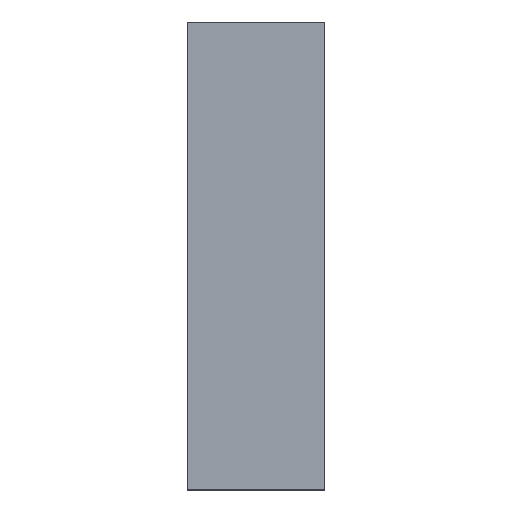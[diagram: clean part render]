
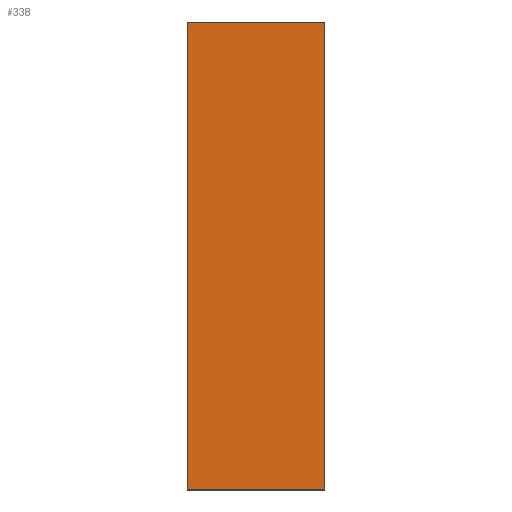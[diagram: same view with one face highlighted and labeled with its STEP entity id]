
A CAD part, top view. The second image highlights one B-rep face of the part: STEP entity #338.
In plain terms, the highlighted planar face has unit normal (0, 0, 1).
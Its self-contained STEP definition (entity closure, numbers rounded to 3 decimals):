
#24 = VERTEX_POINT('',#25);
#25 = CARTESIAN_POINT('',(-528.,-145.913,0.));
#32 = PLANE('',#33);
#33 = AXIS2_PLACEMENT_3D('',#34,#35,#36);
#34 = CARTESIAN_POINT('',(-528.,-145.913,-1.));
#35 = DIRECTION('',(1.,0.,-0.));
#36 = DIRECTION('',(0.,0.,1.));
#44 = PLANE('',#45);
#45 = AXIS2_PLACEMENT_3D('',#46,#47,#48);
#46 = CARTESIAN_POINT('',(-528.,-145.913,-1.));
#47 = DIRECTION('',(-0.,1.,0.));
#48 = DIRECTION('',(0.,0.,1.));
#85 = VERTEX_POINT('',#86);
#86 = CARTESIAN_POINT('',(-528.,-87.913,0.));
#100 = PLANE('',#101);
#101 = AXIS2_PLACEMENT_3D('',#102,#103,#104);
#102 = CARTESIAN_POINT('',(-528.,-87.913,-1.));
#103 = DIRECTION('',(-0.,1.,0.));
#104 = DIRECTION('',(0.,0.,1.));
#112 = EDGE_CURVE('',#24,#85,#113,.T.);
#113 = SURFACE_CURVE('',#114,(#118,#125),.PCURVE_S1.);
#114 = LINE('',#115,#116);
#115 = CARTESIAN_POINT('',(-528.,-145.913,0.));
#116 = VECTOR('',#117,1.);
#117 = DIRECTION('',(-0.,1.,0.));
#118 = PCURVE('',#32,#119);
#119 = DEFINITIONAL_REPRESENTATION('',(#120),#124);
#120 = LINE('',#121,#122);
#121 = CARTESIAN_POINT('',(1.,0.));
#122 = VECTOR('',#123,1.);
#123 = DIRECTION('',(0.,-1.));
#124 = ( GEOMETRIC_REPRESENTATION_CONTEXT(2) 
PARAMETRIC_REPRESENTATION_CONTEXT() REPRESENTATION_CONTEXT('2D SPACE',''
  ) );
#125 = PCURVE('',#126,#131);
#126 = PLANE('',#127);
#127 = AXIS2_PLACEMENT_3D('',#128,#129,#130);
#128 = CARTESIAN_POINT('',(-528.,-145.913,0.));
#129 = DIRECTION('',(0.,0.,1.));
#130 = DIRECTION('',(1.,0.,-0.));
#131 = DEFINITIONAL_REPRESENTATION('',(#132),#136);
#132 = LINE('',#133,#134);
#133 = CARTESIAN_POINT('',(0.,0.));
#134 = VECTOR('',#135,1.);
#135 = DIRECTION('',(0.,1.));
#136 = ( GEOMETRIC_REPRESENTATION_CONTEXT(2) 
PARAMETRIC_REPRESENTATION_CONTEXT() REPRESENTATION_CONTEXT('2D SPACE',''
  ) );
#144 = VERTEX_POINT('',#145);
#145 = CARTESIAN_POINT('',(-511.,-145.913,0.));
#152 = PLANE('',#153);
#153 = AXIS2_PLACEMENT_3D('',#154,#155,#156);
#154 = CARTESIAN_POINT('',(-511.,-145.913,-1.));
#155 = DIRECTION('',(1.,0.,-0.));
#156 = DIRECTION('',(0.,0.,1.));
#195 = VERTEX_POINT('',#196);
#196 = CARTESIAN_POINT('',(-511.,-87.913,0.));
#217 = EDGE_CURVE('',#144,#195,#218,.T.);
#218 = SURFACE_CURVE('',#219,(#223,#230),.PCURVE_S1.);
#219 = LINE('',#220,#221);
#220 = CARTESIAN_POINT('',(-511.,-145.913,0.));
#221 = VECTOR('',#222,1.);
#222 = DIRECTION('',(-0.,1.,0.));
#223 = PCURVE('',#152,#224);
#224 = DEFINITIONAL_REPRESENTATION('',(#225),#229);
#225 = LINE('',#226,#227);
#226 = CARTESIAN_POINT('',(1.,0.));
#227 = VECTOR('',#228,1.);
#228 = DIRECTION('',(0.,-1.));
#229 = ( GEOMETRIC_REPRESENTATION_CONTEXT(2) 
PARAMETRIC_REPRESENTATION_CONTEXT() REPRESENTATION_CONTEXT('2D SPACE',''
  ) );
#230 = PCURVE('',#126,#231);
#231 = DEFINITIONAL_REPRESENTATION('',(#232),#236);
#232 = LINE('',#233,#234);
#233 = CARTESIAN_POINT('',(17.,0.));
#234 = VECTOR('',#235,1.);
#235 = DIRECTION('',(0.,1.));
#236 = ( GEOMETRIC_REPRESENTATION_CONTEXT(2) 
PARAMETRIC_REPRESENTATION_CONTEXT() REPRESENTATION_CONTEXT('2D SPACE',''
  ) );
#263 = EDGE_CURVE('',#24,#144,#264,.T.);
#264 = SURFACE_CURVE('',#265,(#269,#276),.PCURVE_S1.);
#265 = LINE('',#266,#267);
#266 = CARTESIAN_POINT('',(-528.,-145.913,0.));
#267 = VECTOR('',#268,1.);
#268 = DIRECTION('',(1.,0.,-0.));
#269 = PCURVE('',#44,#270);
#270 = DEFINITIONAL_REPRESENTATION('',(#271),#275);
#271 = LINE('',#272,#273);
#272 = CARTESIAN_POINT('',(1.,0.));
#273 = VECTOR('',#274,1.);
#274 = DIRECTION('',(0.,1.));
#275 = ( GEOMETRIC_REPRESENTATION_CONTEXT(2) 
PARAMETRIC_REPRESENTATION_CONTEXT() REPRESENTATION_CONTEXT('2D SPACE',''
  ) );
#276 = PCURVE('',#126,#277);
#277 = DEFINITIONAL_REPRESENTATION('',(#278),#282);
#278 = LINE('',#279,#280);
#279 = CARTESIAN_POINT('',(0.,0.));
#280 = VECTOR('',#281,1.);
#281 = DIRECTION('',(1.,0.));
#282 = ( GEOMETRIC_REPRESENTATION_CONTEXT(2) 
PARAMETRIC_REPRESENTATION_CONTEXT() REPRESENTATION_CONTEXT('2D SPACE',''
  ) );
#310 = EDGE_CURVE('',#85,#195,#311,.T.);
#311 = SURFACE_CURVE('',#312,(#316,#323),.PCURVE_S1.);
#312 = LINE('',#313,#314);
#313 = CARTESIAN_POINT('',(-528.,-87.913,0.));
#314 = VECTOR('',#315,1.);
#315 = DIRECTION('',(1.,0.,-0.));
#316 = PCURVE('',#100,#317);
#317 = DEFINITIONAL_REPRESENTATION('',(#318),#322);
#318 = LINE('',#319,#320);
#319 = CARTESIAN_POINT('',(1.,0.));
#320 = VECTOR('',#321,1.);
#321 = DIRECTION('',(0.,1.));
#322 = ( GEOMETRIC_REPRESENTATION_CONTEXT(2) 
PARAMETRIC_REPRESENTATION_CONTEXT() REPRESENTATION_CONTEXT('2D SPACE',''
  ) );
#323 = PCURVE('',#126,#324);
#324 = DEFINITIONAL_REPRESENTATION('',(#325),#329);
#325 = LINE('',#326,#327);
#326 = CARTESIAN_POINT('',(0.,58.));
#327 = VECTOR('',#328,1.);
#328 = DIRECTION('',(1.,0.));
#329 = ( GEOMETRIC_REPRESENTATION_CONTEXT(2) 
PARAMETRIC_REPRESENTATION_CONTEXT() REPRESENTATION_CONTEXT('2D SPACE',''
  ) );
#338 = ADVANCED_FACE('',(#339),#126,.T.);
#339 = FACE_BOUND('',#340,.T.);
#340 = EDGE_LOOP('',(#341,#342,#343,#344));
#341 = ORIENTED_EDGE('',*,*,#112,.F.);
#342 = ORIENTED_EDGE('',*,*,#263,.T.);
#343 = ORIENTED_EDGE('',*,*,#217,.T.);
#344 = ORIENTED_EDGE('',*,*,#310,.F.);
